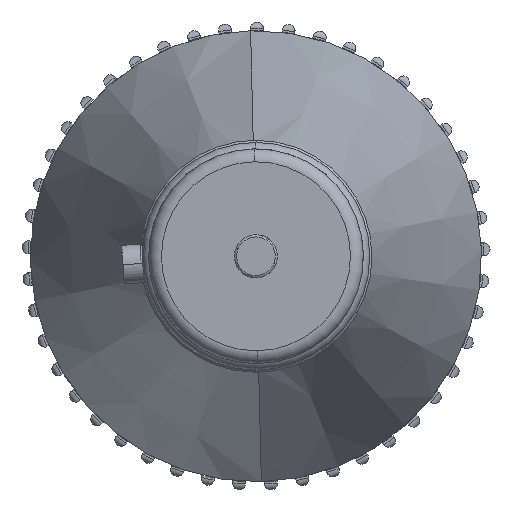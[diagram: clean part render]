
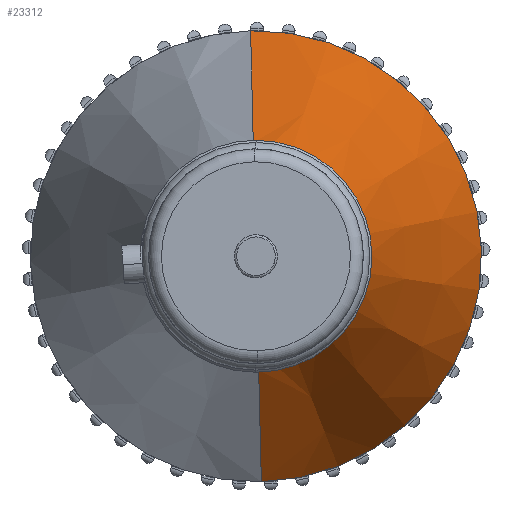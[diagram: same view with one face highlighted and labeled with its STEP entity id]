
A CAD part, left-side view. The second image highlights one B-rep face of the part: STEP entity #23312.
In plain terms, the highlighted conical face has half-angle 19.12 degrees and reference radius 52.5 mm.
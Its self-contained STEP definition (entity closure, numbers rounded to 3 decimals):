
#68 = CARTESIAN_POINT ( 'NONE',  ( 95., 0., 52.5 ) ) ;
#4254 = VERTEX_POINT ( 'NONE', #22200 ) ;
#4766 = LINE ( 'NONE', #13820, #18670 ) ;
#5370 = ORIENTED_EDGE ( 'NONE', *, *, #15755, .F. ) ;
#6507 = FACE_OUTER_BOUND ( 'NONE', #7089, .T. ) ;
#7016 = CARTESIAN_POINT ( 'NONE',  ( 95., 0., 0. ) ) ;
#7089 = EDGE_LOOP ( 'NONE', ( #5370, #42663, #16041, #26380 ) ) ;
#9422 = CARTESIAN_POINT ( 'NONE',  ( 95., 0., 52.5 ) ) ;
#9551 = DIRECTION ( 'NONE',  ( 0.945, 0., 0.328 ) ) ;
#10527 = EDGE_CURVE ( 'NONE', #4254, #44094, #38780, .T. ) ;
#11711 = CARTESIAN_POINT ( 'NONE',  ( 20., 0., -26.5 ) ) ;
#13701 = CARTESIAN_POINT ( 'NONE',  ( 20., 0., 0. ) ) ;
#13820 = CARTESIAN_POINT ( 'NONE',  ( 95., 0., -52.5 ) ) ;
#13898 = VECTOR ( 'NONE', #9551, 1000. ) ;
#14743 = CIRCLE ( 'NONE', #37274, 26.5 ) ;
#15755 = EDGE_CURVE ( 'NONE', #33287, #44094, #19814, .T. ) ;
#16041 = ORIENTED_EDGE ( 'NONE', *, *, #25722, .T. ) ;
#17422 = EDGE_CURVE ( 'NONE', #29097, #33287, #14743, .T. ) ;
#18670 = VECTOR ( 'NONE', #27801, 1000. ) ;
#19814 = LINE ( 'NONE', #9422, #13898 ) ;
#22200 = CARTESIAN_POINT ( 'NONE',  ( 95., 0., -52.5 ) ) ;
#23312 = ADVANCED_FACE ( 'NONE', ( #6507 ), #29042, .T. ) ;
#23479 = DIRECTION ( 'NONE',  ( 0., 0., 1. ) ) ;
#24076 = DIRECTION ( 'NONE',  ( -1., 0., 0. ) ) ;
#24114 = DIRECTION ( 'NONE',  ( 1., 0., 0. ) ) ;
#24571 = DIRECTION ( 'NONE',  ( 0., 0., -1. ) ) ;
#25722 = EDGE_CURVE ( 'NONE', #29097, #4254, #4766, .T. ) ;
#26380 = ORIENTED_EDGE ( 'NONE', *, *, #10527, .T. ) ;
#26931 = DIRECTION ( 'NONE',  ( -1., 0., 0. ) ) ;
#27801 = DIRECTION ( 'NONE',  ( 0.945, 0., -0.328 ) ) ;
#29042 = CONICAL_SURFACE ( 'NONE', #43738, 52.5, 0.334 ) ;
#29097 = VERTEX_POINT ( 'NONE', #11711 ) ;
#29274 = CARTESIAN_POINT ( 'NONE',  ( 20., 0., 26.5 ) ) ;
#30694 = CARTESIAN_POINT ( 'NONE',  ( 95., 0., 0. ) ) ;
#33287 = VERTEX_POINT ( 'NONE', #29274 ) ;
#33508 = AXIS2_PLACEMENT_3D ( 'NONE', #30694, #26931, #23479 ) ;
#37274 = AXIS2_PLACEMENT_3D ( 'NONE', #13701, #24076, #41127 ) ;
#38780 = CIRCLE ( 'NONE', #33508, 52.5 ) ;
#41127 = DIRECTION ( 'NONE',  ( 0., 0., 1. ) ) ;
#42663 = ORIENTED_EDGE ( 'NONE', *, *, #17422, .F. ) ;
#43738 = AXIS2_PLACEMENT_3D ( 'NONE', #7016, #24114, #24571 ) ;
#44094 = VERTEX_POINT ( 'NONE', #68 ) ;
